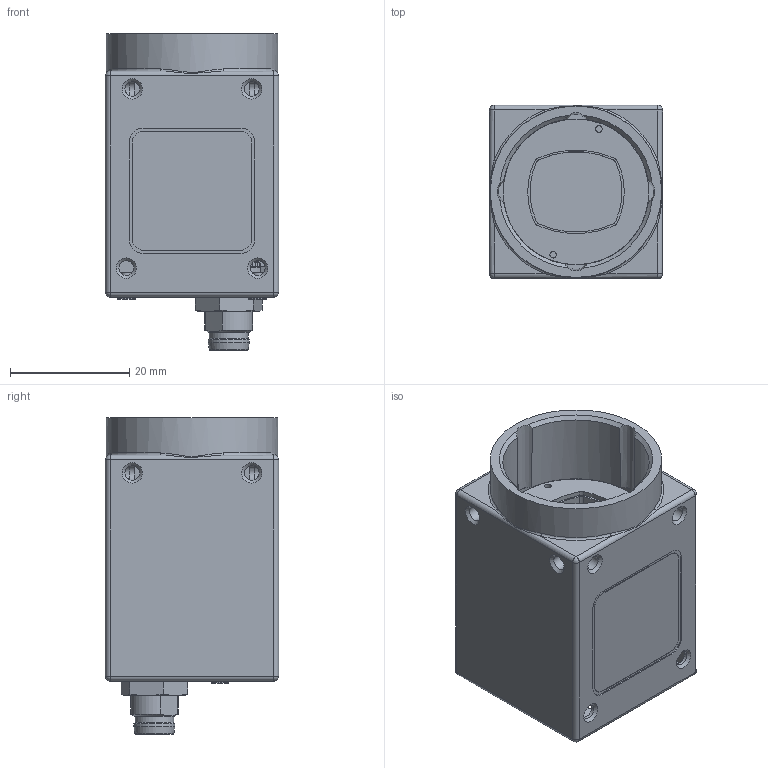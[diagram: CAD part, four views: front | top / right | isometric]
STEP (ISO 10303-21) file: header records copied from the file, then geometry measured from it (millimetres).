
FILE_DESCRIPTION( ( 'Unknown' ), '1' );
FILE_NAME( 'C:/Users/rih/Desktop/11151219_VCXU-23M.stp.stp', '14.10.2014', ( 'Unknown' ), ( 'Unknown' ), 'PSStep 15.0.49', 'Unknown', ' ' );
FILE_SCHEMA( ( 'AUTOMOTIVE_DESIGN { 1 0 10303 214 1 1 1 1 }' ) );
Length unit declared in the file: millimetre
Products named in the file (7): 11104603
Bounding box: 29 x 29 x 53 mm (x, y, z)
Volume: 10280.4 mm3; surface area: 15745.4 mm2
Topology: 7 solids, 11 shells, 1542 faces, 4007 edges, 2627 vertices
Faces by surface type: plane 914, cylinder 474, cone 71, torus 27, sphere 24, bspline 24, extrusion 8
Full cylindrical faces by diameter (mm): 0.217 x1, 0.6 x16, 0.7 x1, 0.9 x118, 1.1 x2, 1.4 x4, 1.567 x2, 1.6 x2, 1.9 x4, 2.459 x10, 3 x4, 6.5 x1, 6.9 x1, 8.4 x1, 9 x1, 9.4 x1, 24.4 x1, 26 x1, 28.7 x1
Entity records: 63480 total; most frequent: CARTESIAN_POINT 12082, DIRECTION 7346, ORIENTED_EDGE 7110, EDGE_CURVE 3555, AXIS2_PLACEMENT_3D 2608, VERTEX_POINT 2438, PRESENTATION_STYLE_ASSIGNMENT 2211, COLOUR_RGB 2211
